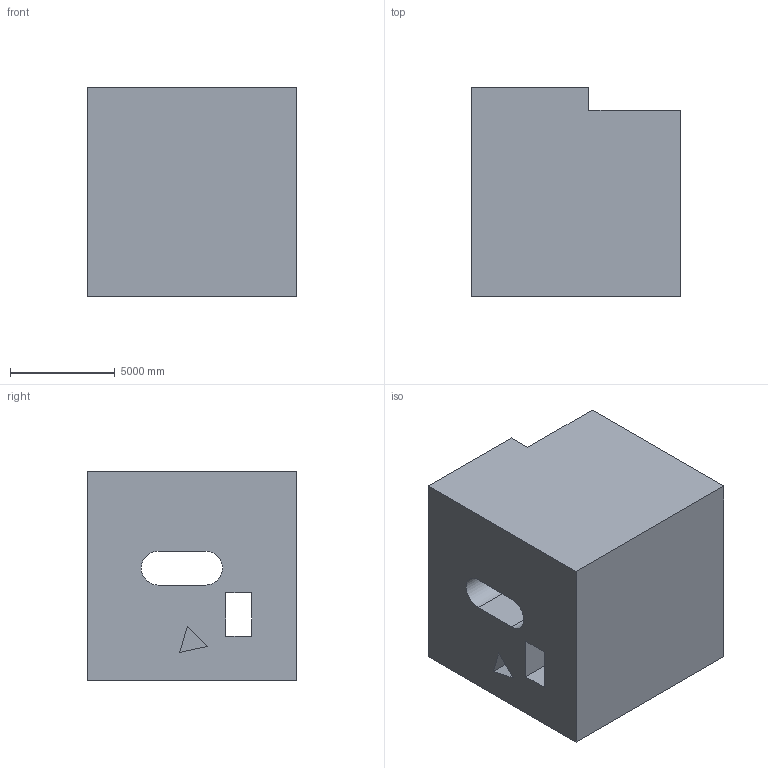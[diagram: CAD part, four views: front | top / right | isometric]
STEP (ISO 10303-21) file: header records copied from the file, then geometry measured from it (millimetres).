
FILE_DESCRIPTION (( 'STEP AP203' ), '1' );
FILE_NAME ('93.STEP', '2022-08-31T11:31:25', ( 'user' ), ( '' ), 'SwSTEP 2.0', 'SolidWorks 2021', '' );
FILE_SCHEMA (( 'CONFIG_CONTROL_DESIGN' ));
Length unit declared in the file: centimetre
Products named in the file (1): 93
Bounding box: 10000 x 10000 x 10000 mm (x, y, z)
Volume: 843734156962.8 mm3; surface area: 748306126.7 mm2
Topology: 1 solids, 1 shells, 23 faces, 60 edges, 40 vertices
Faces by surface type: plane 21, cylinder 2
Entity records: 783 total; most frequent: CARTESIAN_POINT 124, ORIENTED_EDGE 120, DIRECTION 112, EDGE_CURVE 60, LINE 56, VECTOR 56, VERTEX_POINT 40, EDGE_LOOP 28
